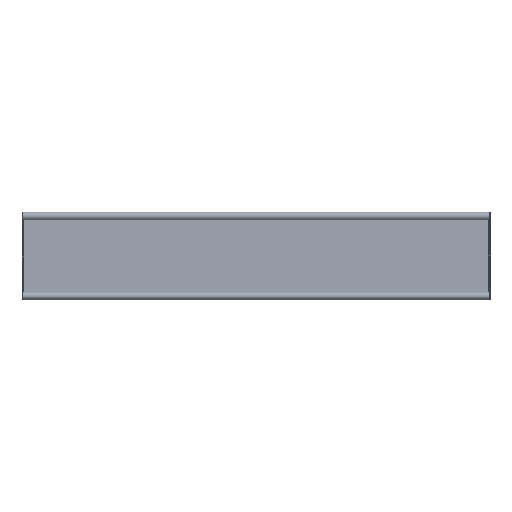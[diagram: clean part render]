
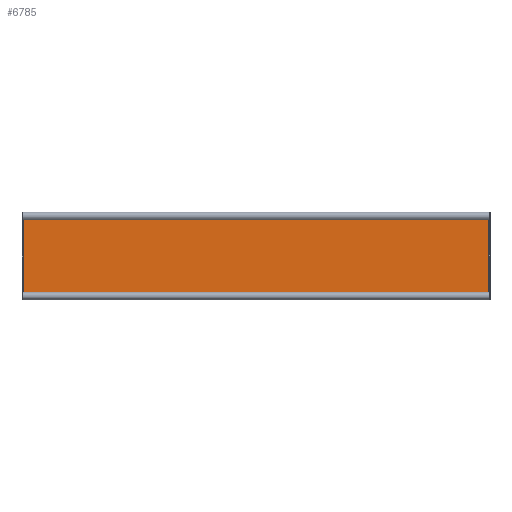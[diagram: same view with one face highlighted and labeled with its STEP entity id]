
A CAD part, front view. The second image highlights one B-rep face of the part: STEP entity #6785.
In plain terms, the highlighted planar face has unit normal (0, -1, 0).
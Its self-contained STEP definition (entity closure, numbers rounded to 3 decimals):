
#130 = AXIS2_PLACEMENT_3D ( 'NONE', #5843, #8115, #7191 ) ;
#198 = DIRECTION ( 'NONE',  ( 0., 0., 1. ) ) ;
#342 = EDGE_CURVE ( 'NONE', #7889, #6684, #1591, .T. ) ;
#348 = CARTESIAN_POINT ( 'NONE',  ( -595., -2., -108.5 ) ) ;
#509 = DIRECTION ( 'NONE',  ( 0., 1., 0. ) ) ;
#516 = CARTESIAN_POINT ( 'NONE',  ( -596., -2., 107.5 ) ) ;
#666 = CIRCLE ( 'NONE', #7549, 5. ) ;
#671 = VECTOR ( 'NONE', #2961, 1000. ) ;
#788 = EDGE_CURVE ( 'NONE', #1589, #6684, #5239, .T. ) ;
#962 = DIRECTION ( 'NONE',  ( 0., 0., 1. ) ) ;
#1080 = CARTESIAN_POINT ( 'NONE',  ( -599., -2., 111.5 ) ) ;
#1589 = VERTEX_POINT ( 'NONE', #348 ) ;
#1591 = CIRCLE ( 'NONE', #130, 5. ) ;
#1690 = ORIENTED_EDGE ( 'NONE', *, *, #1837, .F. ) ;
#1816 = CIRCLE ( 'NONE', #6438, 5. ) ;
#1837 = EDGE_CURVE ( 'NONE', #6187, #9932, #3193, .T. ) ;
#1968 = EDGE_LOOP ( 'NONE', ( #8506, #6955, #8250, #1690, #6509, #5255, #8005, #5136 ) ) ;
#2053 = CARTESIAN_POINT ( 'NONE',  ( 596., -2., 107.5 ) ) ;
#2180 = DIRECTION ( 'NONE',  ( 0., 0., 1. ) ) ;
#2243 = CARTESIAN_POINT ( 'NONE',  ( -599., -2., -108.5 ) ) ;
#2303 = DIRECTION ( 'NONE',  ( 0., -1., 0. ) ) ;
#2610 = CARTESIAN_POINT ( 'NONE',  ( -596., -2., -111.5 ) ) ;
#2781 = CARTESIAN_POINT ( 'NONE',  ( -599., -2., -111.5 ) ) ;
#2910 = CARTESIAN_POINT ( 'NONE',  ( 596., -2., -111.5 ) ) ;
#2961 = DIRECTION ( 'NONE',  ( 0., 0., 1. ) ) ;
#3084 = EDGE_CURVE ( 'NONE', #9699, #4252, #6356, .T. ) ;
#3193 = LINE ( 'NONE', #4693, #5914 ) ;
#4085 = DIRECTION ( 'NONE',  ( 0., -1., 0. ) ) ;
#4100 = EDGE_CURVE ( 'NONE', #1589, #9699, #666, .T. ) ;
#4128 = DIRECTION ( 'NONE',  ( 0., 0., 1. ) ) ;
#4252 = VERTEX_POINT ( 'NONE', #516 ) ;
#4541 = CARTESIAN_POINT ( 'NONE',  ( -595., -2., 108.5 ) ) ;
#4544 = DIRECTION ( 'NONE',  ( 1., 0., 0. ) ) ;
#4672 = CARTESIAN_POINT ( 'NONE',  ( 596., -2., -107.5 ) ) ;
#4693 = CARTESIAN_POINT ( 'NONE',  ( -599., -2., 108.5 ) ) ;
#5136 = ORIENTED_EDGE ( 'NONE', *, *, #788, .T. ) ;
#5239 = LINE ( 'NONE', #2243, #7350 ) ;
#5255 = ORIENTED_EDGE ( 'NONE', *, *, #3084, .F. ) ;
#5409 = EDGE_CURVE ( 'NONE', #4252, #6187, #6913, .T. ) ;
#5671 = CARTESIAN_POINT ( 'NONE',  ( -596., -2., -107.5 ) ) ;
#5686 = CARTESIAN_POINT ( 'NONE',  ( -599., -2., -111.5 ) ) ;
#5843 = CARTESIAN_POINT ( 'NONE',  ( 599., -2., -111.5 ) ) ;
#5910 = LINE ( 'NONE', #2910, #671 ) ;
#5914 = VECTOR ( 'NONE', #9325, 1000. ) ;
#6187 = VERTEX_POINT ( 'NONE', #4541 ) ;
#6356 = LINE ( 'NONE', #2610, #8029 ) ;
#6438 = AXIS2_PLACEMENT_3D ( 'NONE', #7839, #9399, #962 ) ;
#6509 = ORIENTED_EDGE ( 'NONE', *, *, #5409, .F. ) ;
#6684 = VERTEX_POINT ( 'NONE', #8706 ) ;
#6785 = ADVANCED_FACE ( 'NONE', ( #9658 ), #9044, .F. ) ;
#6913 = CIRCLE ( 'NONE', #8216, 5. ) ;
#6955 = ORIENTED_EDGE ( 'NONE', *, *, #7961, .T. ) ;
#7191 = DIRECTION ( 'NONE',  ( 0., 0., 1. ) ) ;
#7350 = VECTOR ( 'NONE', #4544, 1000. ) ;
#7549 = AXIS2_PLACEMENT_3D ( 'NONE', #5686, #2303, #9916 ) ;
#7839 = CARTESIAN_POINT ( 'NONE',  ( 599., -2., 111.5 ) ) ;
#7889 = VERTEX_POINT ( 'NONE', #4672 ) ;
#7961 = EDGE_CURVE ( 'NONE', #7889, #9871, #5910, .T. ) ;
#8005 = ORIENTED_EDGE ( 'NONE', *, *, #4100, .F. ) ;
#8029 = VECTOR ( 'NONE', #198, 1000. ) ;
#8115 = DIRECTION ( 'NONE',  ( 0., -1., 0. ) ) ;
#8216 = AXIS2_PLACEMENT_3D ( 'NONE', #1080, #4085, #4128 ) ;
#8250 = ORIENTED_EDGE ( 'NONE', *, *, #8632, .F. ) ;
#8506 = ORIENTED_EDGE ( 'NONE', *, *, #342, .F. ) ;
#8516 = AXIS2_PLACEMENT_3D ( 'NONE', #2781, #509, #2180 ) ;
#8632 = EDGE_CURVE ( 'NONE', #9932, #9871, #1816, .T. ) ;
#8706 = CARTESIAN_POINT ( 'NONE',  ( 595., -2., -108.5 ) ) ;
#8875 = CARTESIAN_POINT ( 'NONE',  ( 595., -2., 108.5 ) ) ;
#9044 = PLANE ( 'NONE',  #8516 ) ;
#9325 = DIRECTION ( 'NONE',  ( 1., 0., 0. ) ) ;
#9399 = DIRECTION ( 'NONE',  ( 0., -1., 0. ) ) ;
#9658 = FACE_OUTER_BOUND ( 'NONE', #1968, .T. ) ;
#9699 = VERTEX_POINT ( 'NONE', #5671 ) ;
#9871 = VERTEX_POINT ( 'NONE', #2053 ) ;
#9916 = DIRECTION ( 'NONE',  ( 0., 0., 1. ) ) ;
#9932 = VERTEX_POINT ( 'NONE', #8875 ) ;
